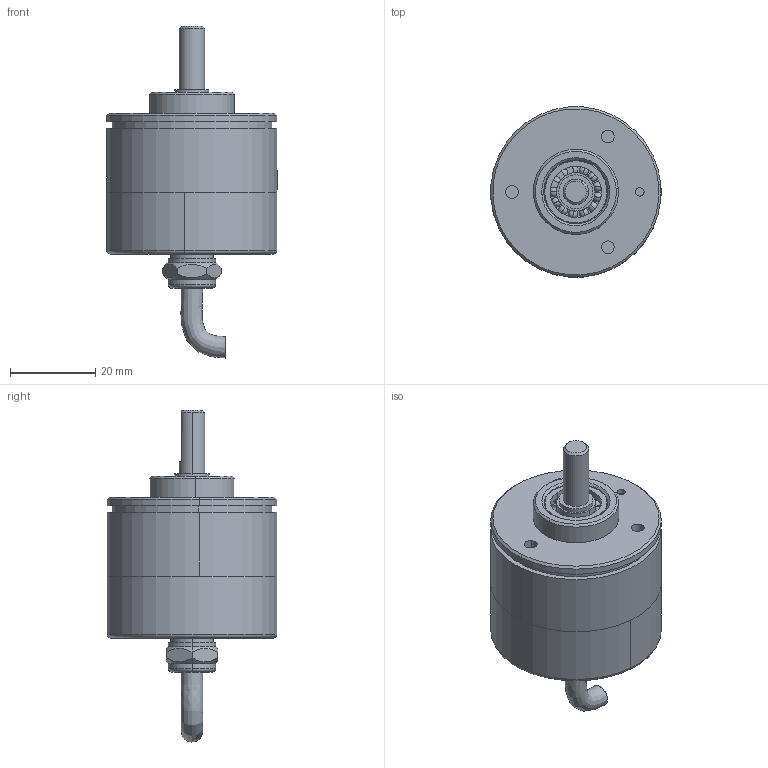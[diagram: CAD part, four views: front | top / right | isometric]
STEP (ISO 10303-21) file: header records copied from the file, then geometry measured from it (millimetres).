
FILE_DESCRIPTION(/* description */ (''),/* implementation_level */ '2;1');
FILE_NAME(/* name */ '06 编码器 IP68-BRT-38-6mm轴（尾出）_stp.stp',/* time_stamp */ '2024-04-22T18:57:23+08:00',/* author */ (''),/* organization */ (''),/* preprocessor_version */ 'ST-DEVELOPER v16.7',/* originating_system */ 'SIEMENS PLM Software NX 12.0',/* authorisation */ '');
FILE_SCHEMA (('AP203_CONFIGURATION_CONTROLLED_3D_DESIGN_OF_MECHANICAL_PARTS_AND_ASSEMBLIES_MIM_LF { 1 0 10303 403 2 1 2}'));
Length unit declared in the file: millimetre
Products named in the file (1): Li Y5970CF99cbbn
Bounding box: 39.92 x 39.85 x 77.9 mm (x, y, z)
Volume: 31875 mm3; surface area: 18668.4 mm2
Topology: 9 solids, 9 shells, 260 faces, 806 edges, 511 vertices
Faces by surface type: cylinder 109, plane 58, torus 54, sphere 26, cone 12, bspline 1
Full cylindrical faces by diameter (mm): 13 x1
Entity records: 10760 total; most frequent: CARTESIAN_POINT 3728, ORIENTED_EDGE 1502, DIRECTION 1405, EDGE_CURVE 751, AXIS2_PLACEMENT_3D 628, VERTEX_POINT 510, CIRCLE 368, EDGE_LOOP 319
